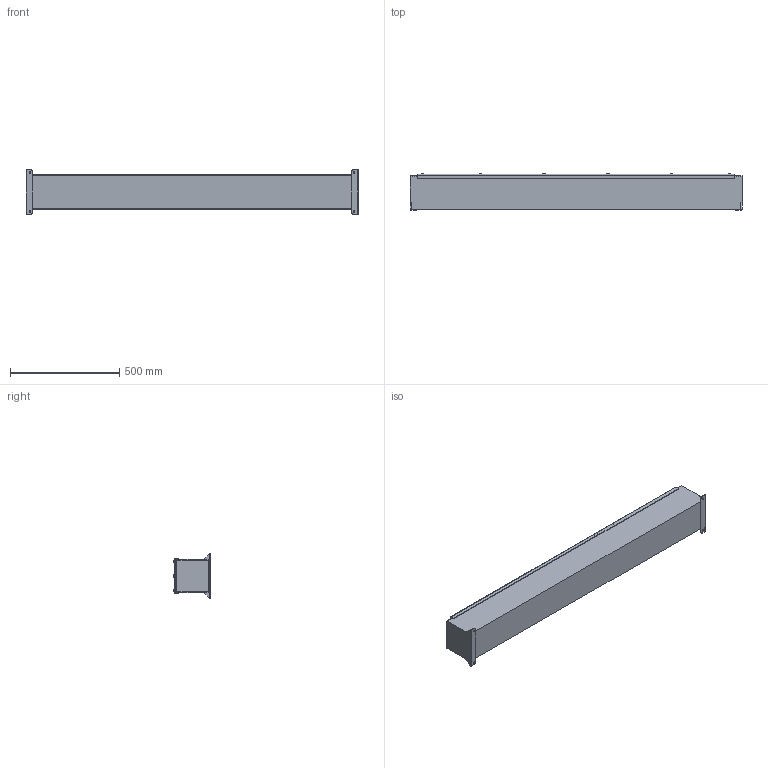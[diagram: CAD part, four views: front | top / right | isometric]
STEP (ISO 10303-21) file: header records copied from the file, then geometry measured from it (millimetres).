
FILE_DESCRIPTION((''),'1');
FILE_NAME('10','2001-04-18T',('jlue'),(''),'PRO/ENGINEER BY PARAMETRIC TECHNOLOGY CORPORATION, 9846','PRO/ENGINEER BY PARAMETRIC TECHNOLOGY CORPORATION, 9846','');
FILE_SCHEMA(('CONFIG_CONTROL_DESIGN'));
Length unit declared in the file: inch
Products named in the file (1): 10
Bounding box: 1520.95 x 168.68 x 203.2 mm (x, y, z)
Surface area: 2161233.4 mm2 (no closed solid volume)
Topology: 0 solids, 0 shells, 304 faces, 1674 edges, 1678 vertices
Faces by surface type: plane 170, cylinder 106, torus 28
Entity records: 8934 total; most frequent: CARTESIAN_POINT 2089, DIRECTION 1649, COMPOSITE_CURVE_SEGMENT 1586, TRIMMED_CURVE 741, AXIS2_PLACEMENT_3D 604, VECTOR 441, LINE 441, CURVE_BOUNDED_SURFACE 304
